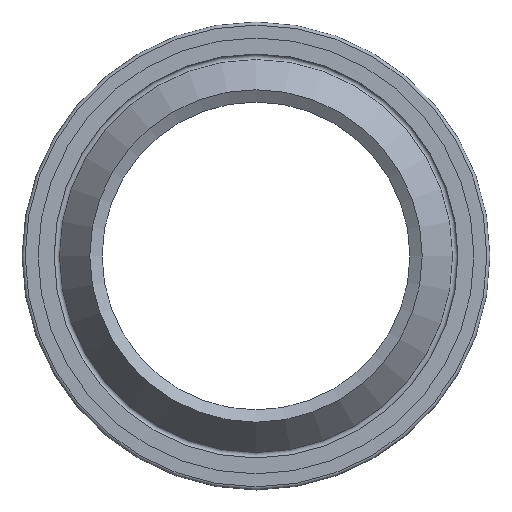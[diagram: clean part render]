
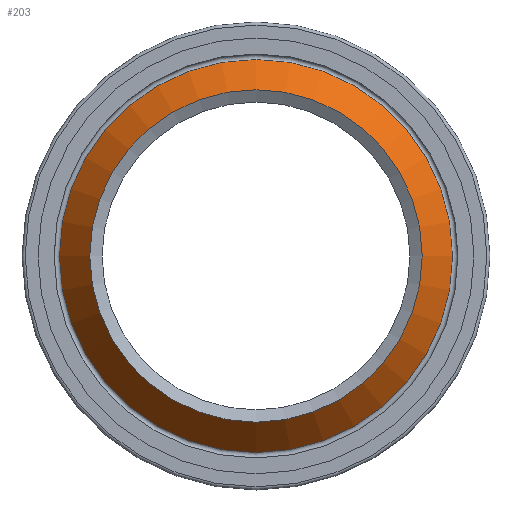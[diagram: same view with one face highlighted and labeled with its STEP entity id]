
A CAD part, top view. The second image highlights one B-rep face of the part: STEP entity #203.
In plain terms, the highlighted conical face has half-angle 38.66 degrees and reference radius 14.95 mm.
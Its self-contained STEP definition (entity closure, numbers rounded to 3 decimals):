
#15=CONICAL_SURFACE('',#252,14.95,0.675);
#27=LINE('',#376,#35);
#35=VECTOR('',#308,14.95);
#51=FACE_OUTER_BOUND('',#68,.T.);
#68=EDGE_LOOP('',(#159,#160,#161,#162));
#86=CIRCLE('',#249,15.955);
#89=CIRCLE('',#253,13.5);
#103=VERTEX_POINT('',#369);
#105=VERTEX_POINT('',#375);
#121=EDGE_CURVE('',#103,#103,#86,.T.);
#124=EDGE_CURVE('',#103,#105,#27,.T.);
#125=EDGE_CURVE('',#105,#105,#89,.T.);
#159=ORIENTED_EDGE('',*,*,#121,.F.);
#160=ORIENTED_EDGE('',*,*,#124,.T.);
#161=ORIENTED_EDGE('',*,*,#125,.T.);
#162=ORIENTED_EDGE('',*,*,#124,.F.);
#203=ADVANCED_FACE('',(#51),#15,.T.);
#249=AXIS2_PLACEMENT_3D('',#370,#300,#301);
#252=AXIS2_PLACEMENT_3D('',#374,#306,#307);
#253=AXIS2_PLACEMENT_3D('',#377,#309,#310);
#300=DIRECTION('center_axis',(0.,0.,-1.));
#301=DIRECTION('ref_axis',(1.,0.,0.));
#306=DIRECTION('center_axis',(0.,0.,-1.));
#307=DIRECTION('ref_axis',(-1.,0.,0.));
#308=DIRECTION('',(-0.625,0.,0.781));
#309=DIRECTION('center_axis',(0.,0.,-1.));
#310=DIRECTION('ref_axis',(-1.,0.,0.));
#369=CARTESIAN_POINT('',(15.955,0.,-3.818));
#370=CARTESIAN_POINT('Origin',(0.,0.,-3.818));
#374=CARTESIAN_POINT('Origin',(0.,0.,-2.563));
#375=CARTESIAN_POINT('',(13.5,0.,-0.75));
#376=CARTESIAN_POINT('',(14.95,0.,-2.563));
#377=CARTESIAN_POINT('Origin',(0.,0.,-0.75));
